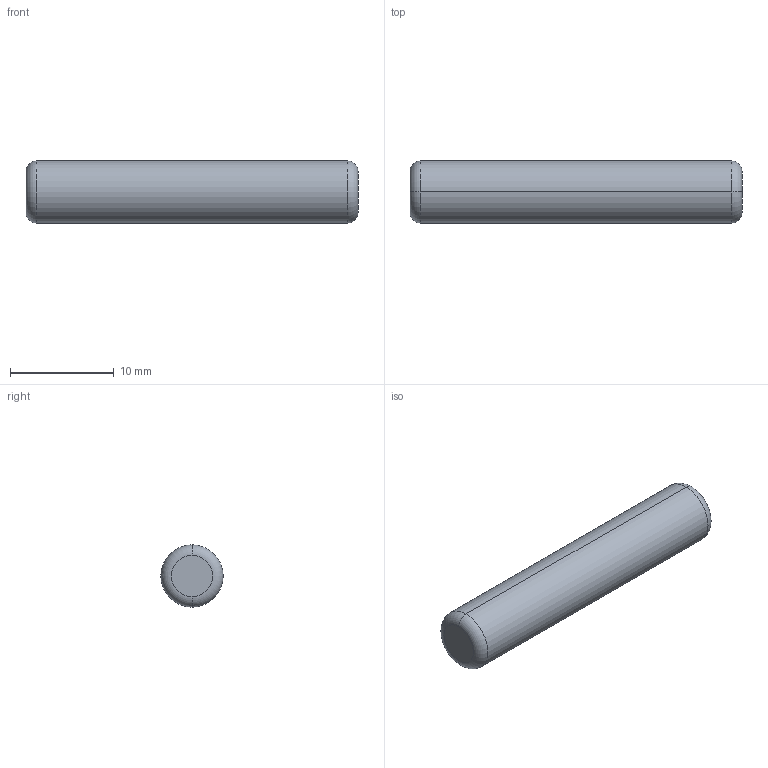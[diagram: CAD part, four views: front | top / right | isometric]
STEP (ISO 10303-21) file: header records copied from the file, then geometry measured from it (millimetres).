
FILE_DESCRIPTION (( 'STEP AP214' ), '1' );
FILE_NAME ('PAS-6x32.STEP', '2020-06-22T10:52:46', ( 'August' ), ( '' ), 'SwSTEP 2.0', 'SolidWorks 2018', '' );
FILE_SCHEMA (( 'AUTOMOTIVE_DESIGN' ));
Length unit declared in the file: millimetre
Products named in the file (1): PAS-6x32
Bounding box: 32 x 6 x 6 mm (x, y, z)
Volume: 897.3 mm3; surface area: 642.7 mm2
Topology: 1 solids, 1 shells, 8 faces, 14 edges, 8 vertices
Faces by surface type: torus 4, cylinder 2, plane 2
Entity records: 232 total; most frequent: DIRECTION 44, CARTESIAN_POINT 31, ORIENTED_EDGE 28, AXIS2_PLACEMENT_3D 21, EDGE_CURVE 14, CIRCLE 12, ADVANCED_FACE 8, VERTEX_POINT 8
